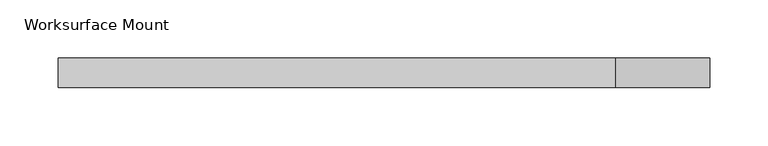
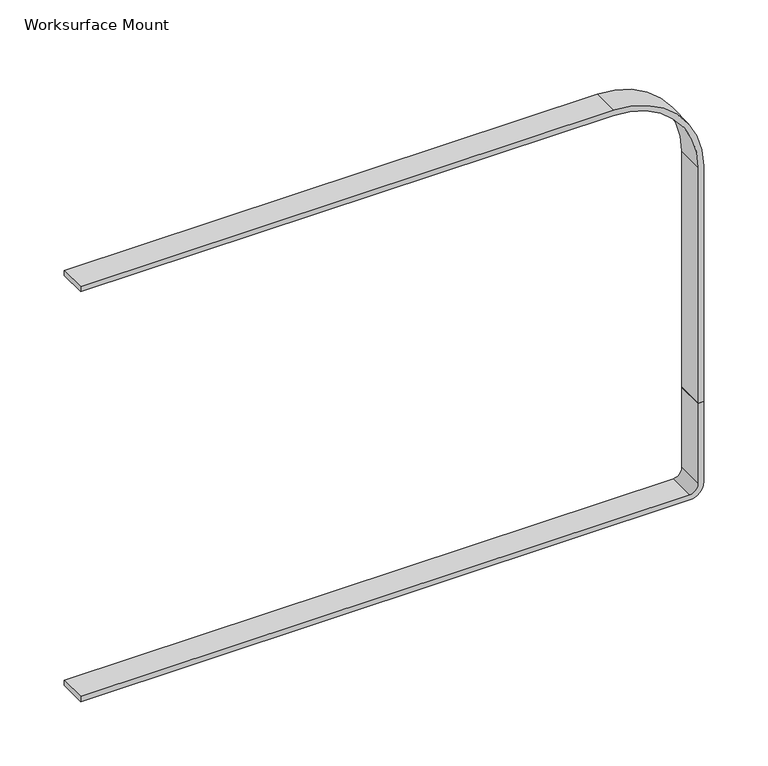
"""IFC4 building model written with IfcOpenShell, lengths in millimetres: light fixture geometry, Haworth_Lighting-LIM : Worksurface Mount."""

from ifc_helpers import new_model, si_unit, point, frame, frame_2d, origin, place, context, project, spatial, polyline, circle_curve, trimmed, segment, composite_curve, outline, extrude, source, transform, mapped, element, save


def worksurface_mount_81171a16(model_context):
    return source(origin(), model_context, "Body", "SweptSolid", [
        extrude(outline(composite_curve([segment(polyline([(698.5, -529.3713699), (698.5, 16.7286301)]), True, "CONTINUOUS"), segment(trimmed(circle_curve(frame_2d((711.2, 16.7286301)), 12.7), [point((698.5, 16.7286301))], [point((711.2, 29.4286301))], False, "CARTESIAN"), True, "CONTINUOUS"), segment(polyline([(711.2, 29.4286301), (787.4, 29.4286301), (787.4, 24.6661301), (711.2, 24.6661301)]), True, "CONTINUOUS"), segment(trimmed(circle_curve(frame_2d((711.2, 16.7286301)), 7.9375), [point((711.2, 24.6661301))], [point((703.2625, 16.7286301))], True, "CARTESIAN"), True, "CONTINUOUS"), segment(polyline([(703.2625, 16.7286301), (703.2625, -529.3713699), (698.5, -529.3713699)]), True, "CONTINUOUS")], self_intersect=False)), frame((0.0, -236.9532085, 0.0), z_axis=(0.0, 1.0, 0.0), x_axis=(0.0, 0.0, 1.0)), (0.0, 0.0, 1.0), 25.4),
        extrude(outline(composite_curve([segment(polyline([(1087.4375, -529.3713699), (1087.4375, -51.5338699)]), True, "CONTINUOUS"), segment(trimmed(circle_curve(frame_2d((1011.2375, -51.5338699)), 76.2), [point((1087.4375, -51.5338699))], [point((1011.2375, 24.6661301))], True, "CARTESIAN"), True, "CONTINUOUS"), segment(polyline([(1011.2375, 24.6661301), (787.4, 24.6661301), (787.4, 29.4286301), (1011.2375, 29.4286301)]), True, "CONTINUOUS"), segment(trimmed(circle_curve(frame_2d((1011.2375, -51.5338699)), 80.9625), [point((1011.2375, 29.4286301))], [point((1092.2, -51.5338699))], False, "CARTESIAN"), True, "CONTINUOUS"), segment(polyline([(1092.2, -51.5338699), (1092.2, -529.3713699), (1087.4375, -529.3713699)]), True, "CONTINUOUS")], self_intersect=False)), frame((0.0, -236.9532085, 0.0), z_axis=(0.0, 1.0, 0.0), x_axis=(0.0, 0.0, 1.0)), (0.0, 0.0, 1.0), 25.4),
    ])


if __name__ == "__main__":
    model = new_model("IFC4")
    model_context = context("Model", 3, world=origin())
    ifc_project = project(units=[si_unit("LENGTHUNIT", "METRE", prefix="MILLI")], contexts=[model_context])
    site = spatial("IfcSite", under=ifc_project)
    building = spatial("IfcBuilding", under=site)
    placement = place(None, origin())
    worksurface_mount_shape = worksurface_mount_81171a16(model_context)
    element("IfcLightFixture", 1, ObjectType="Haworth_Lighting-LIM : Worksurface Mount", at=placement, inside=building, context=model_context, shape_type="MappedRepresentation", body=[
        mapped(worksurface_mount_shape, transform((0.0, 0.0, 0.0), x_axis=(1.0, 0.0, 0.0), y_axis=(0.0, 1.0, 0.0), z_axis=(0.0, 0.0, 1.0))),
    ])
    save(model, "model.ifc")
